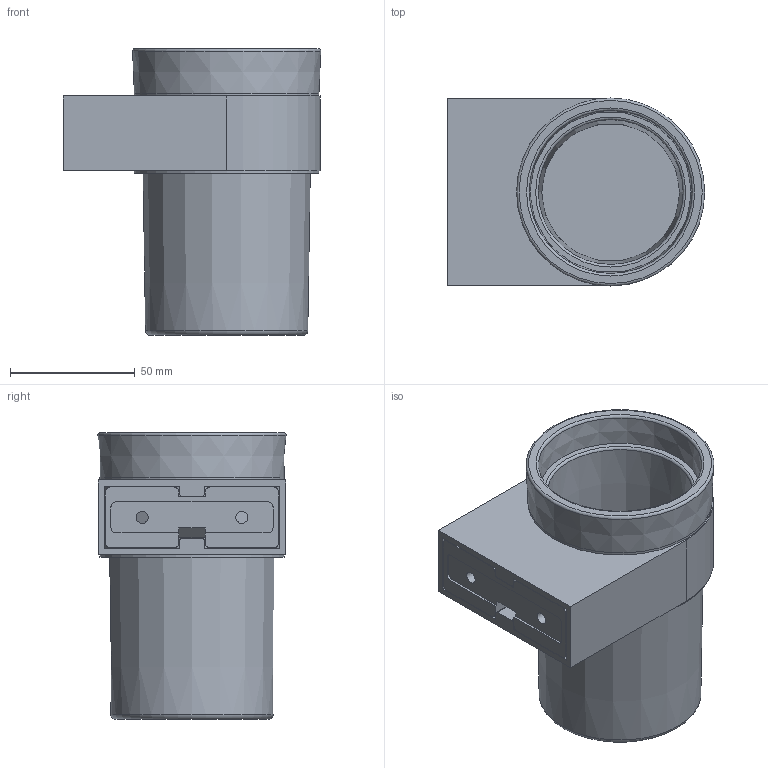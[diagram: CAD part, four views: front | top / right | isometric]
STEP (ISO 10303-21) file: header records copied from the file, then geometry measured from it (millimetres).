
FILE_DESCRIPTION(/* description */ (''),/* implementation_level */ '2;1');
FILE_NAME(/* name */ '4111 650',/* time_stamp */ '2019-08-20T09:59:39+08:00',/* author */ (''),/* organization */ (''),/* preprocessor_version */ 'ST-DEVELOPER v9',/* originating_system */ 'UGS - NX 4.0',/* authorisation */ '');
FILE_SCHEMA (('CONFIG_CONTROL_DESIGN'));
Length unit declared in the file: millimetre
Products named in the file (1): w337D95ig6s
Bounding box: 103.21 x 75.41 x 115 mm (x, y, z)
Volume: 188325.1 mm3; surface area: 108750.8 mm2
Topology: 4 solids, 5 shells, 114 faces, 370 edges, 280 vertices
Faces by surface type: plane 63, cylinder 35, bspline 8, cone 4, torus 4
Full cylindrical faces by diameter (mm): 4.8 x2, 5.2 x1, 69.4 x1, 71 x2, 74 x2
Entity records: 5565 total; most frequent: CARTESIAN_POINT 2400, ORIENTED_EDGE 688, DIRECTION 536, EDGE_CURVE 344, VERTEX_POINT 272, AXIS2_PLACEMENT_3D 189, LINE 158, VECTOR 158
